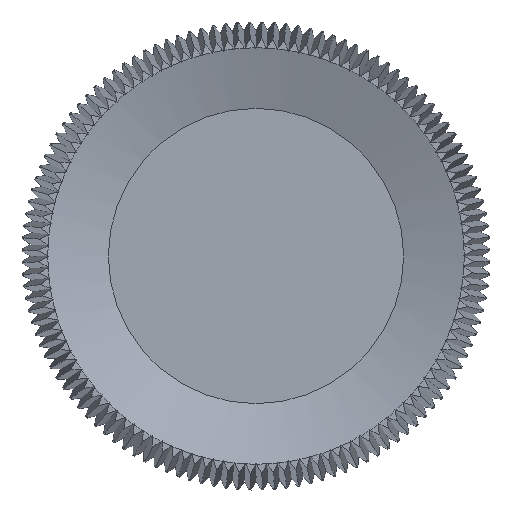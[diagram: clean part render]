
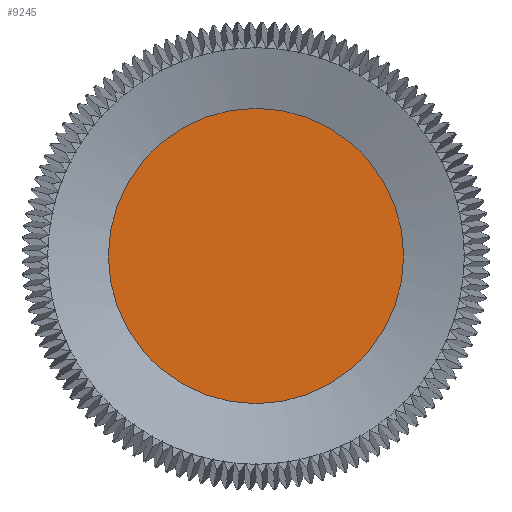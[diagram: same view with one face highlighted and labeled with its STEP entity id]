
A CAD part, front view. The second image highlights one B-rep face of the part: STEP entity #9245.
In plain terms, the highlighted planar face has unit normal (0, -1, 0).
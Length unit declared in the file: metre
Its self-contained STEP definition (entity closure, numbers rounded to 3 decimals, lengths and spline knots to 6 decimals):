
#257=CIRCLE('',#9862,0.005513);
#984=ORIENTED_EDGE('',*,*,#3892,.T.);
#3892=EDGE_CURVE('',#5346,#5346,#257,.T.);
#5346=VERTEX_POINT('',#14365);
#7892=EDGE_LOOP('',(#984));
#8386=FACE_BOUND('',#7892,.T.);
#8879=PLANE('',#9861);
#9245=ADVANCED_FACE('',(#8386),#8879,.T.);
#9861=AXIS2_PLACEMENT_3D('',#14363,#11202,#11203);
#9862=AXIS2_PLACEMENT_3D('',#14364,#11204,#11205);
#11202=DIRECTION('',(0.,-1.,0.));
#11203=DIRECTION('',(1.,0.,0.));
#11204=DIRECTION('',(0.,-1.,0.));
#11205=DIRECTION('',(0.,0.,-1.));
#14363=CARTESIAN_POINT('',(0.,-0.0115,0.));
#14364=CARTESIAN_POINT('',(0.,-0.0115,0.));
#14365=CARTESIAN_POINT('',(0.,-0.0115,-0.005513));
